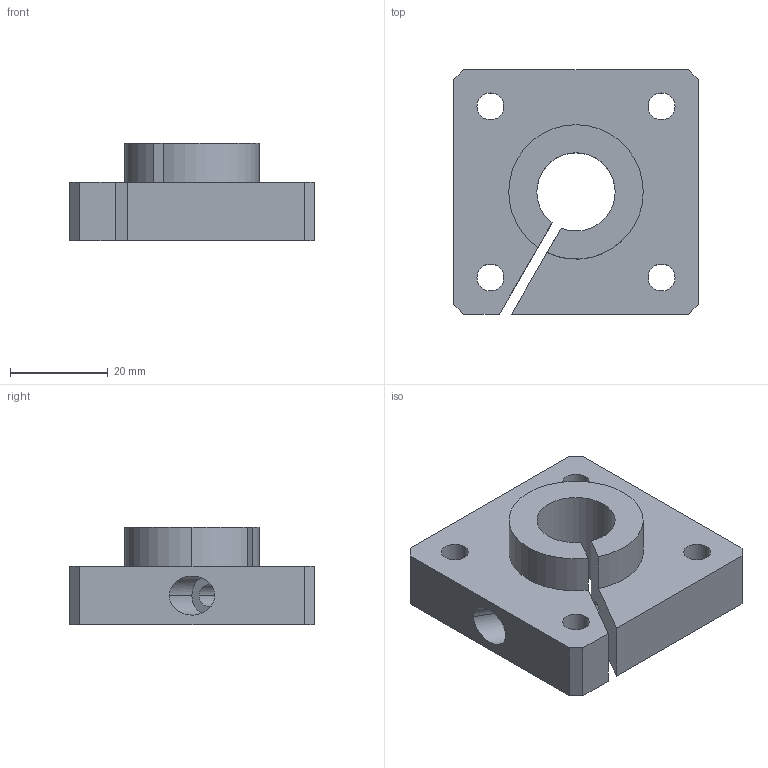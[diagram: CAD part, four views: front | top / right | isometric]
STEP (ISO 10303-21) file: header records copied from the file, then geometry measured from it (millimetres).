
FILE_DESCRIPTION (( 'STEP AP214' ), '1' );
FILE_NAME ('KFWB56-16.step', '2020-03-04T13:40:27', ( '' ), ( '' ), 'SwSTEP 2.0', 'SolidWorks 2019', '' );
FILE_SCHEMA (( 'AUTOMOTIVE_DESIGN' ));
Length unit declared in the file: millimetre
Products named in the file (1): KFWB56-16
Bounding box: 50 x 50 x 20 mm (x, y, z)
Volume: 28161.3 mm3; surface area: 10160.3 mm2
Topology: 1 solids, 1 shells, 37 faces, 100 edges, 65 vertices
Faces by surface type: cylinder 20, plane 15, cone 2
Entity records: 1238 total; most frequent: DIRECTION 210, CARTESIAN_POINT 207, ORIENTED_EDGE 196, EDGE_CURVE 98, AXIS2_PLACEMENT_3D 76, VERTEX_POINT 65, LINE 58, VECTOR 58
